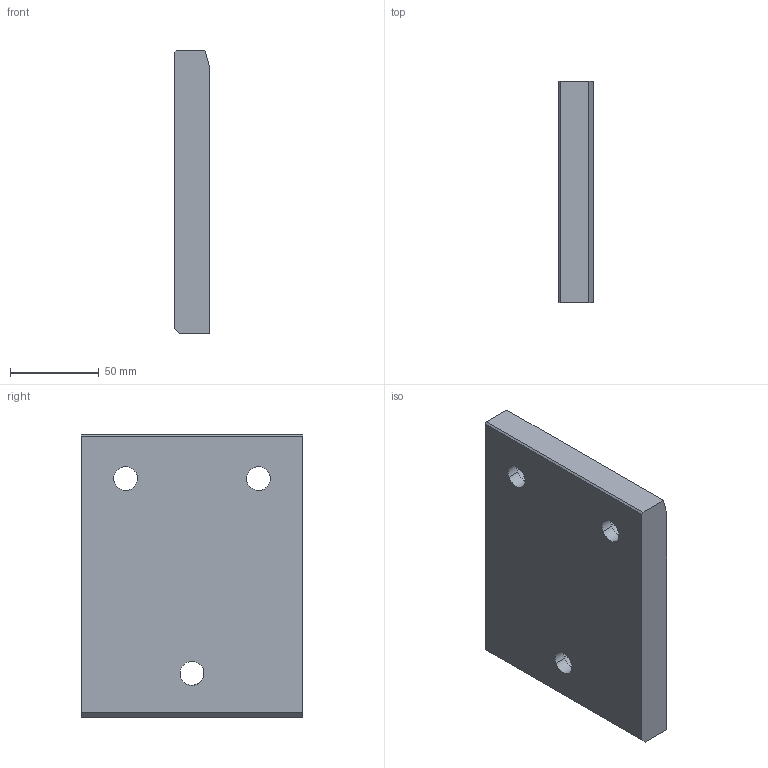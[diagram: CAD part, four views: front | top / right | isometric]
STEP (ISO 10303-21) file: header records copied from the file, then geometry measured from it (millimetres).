
FILE_DESCRIPTION (( 'STEP AP214' ), '1' );
FILE_NAME ('SW225-01-125x160.STEP', '2020-10-21T10:32:48', ( 'August' ), ( '' ), 'SwSTEP 2.0', 'SolidWorks 2018', '' );
FILE_SCHEMA (( 'AUTOMOTIVE_DESIGN' ));
Length unit declared in the file: millimetre
Products named in the file (1): SW225-01-125x160
Bounding box: 20 x 125 x 160 mm (x, y, z)
Volume: 382439.9 mm3; surface area: 53260.7 mm2
Topology: 1 solids, 1 shells, 25 faces, 60 edges, 40 vertices
Faces by surface type: cylinder 13, plane 12
Entity records: 858 total; most frequent: CARTESIAN_POINT 210, DIRECTION 130, ORIENTED_EDGE 120, EDGE_CURVE 60, AXIS2_PLACEMENT_3D 48, VERTEX_POINT 40, LINE 34, EDGE_LOOP 34
